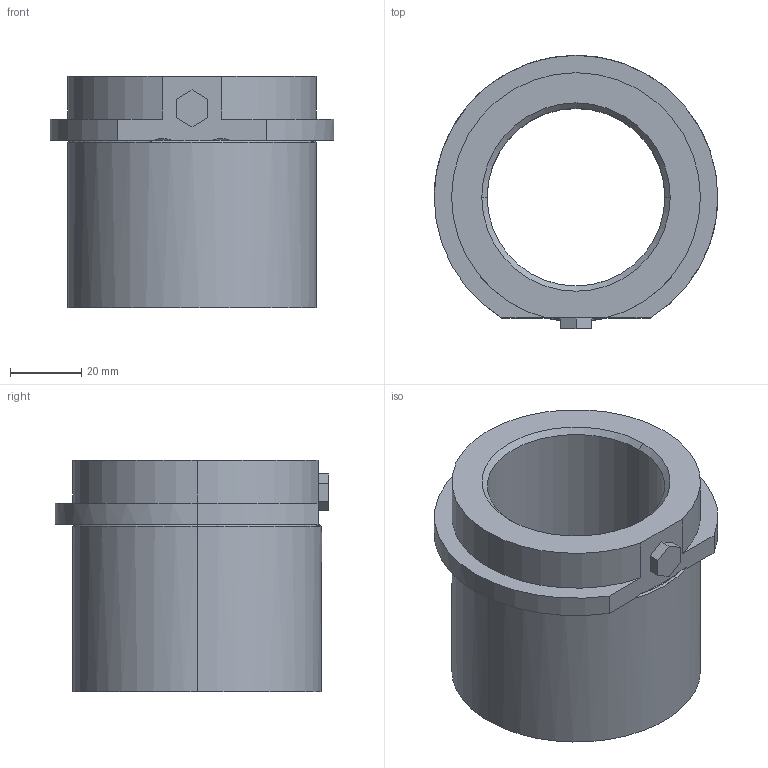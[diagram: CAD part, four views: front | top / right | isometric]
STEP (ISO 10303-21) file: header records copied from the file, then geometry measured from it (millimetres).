
FILE_DESCRIPTION(('CATIA V5 STEP Exchange'),'2;1');
FILE_NAME('C:\Users\Utente\Desktop\IO LAVORO\3D X SITO CF\X SITO\740\740-50.stp','2021-01-18T19:30:50+00:00',('none'),('none'),'CATIA Version 5 Release 20 GA (IN-10)','CATIA V5 STEP AP203','none');
FILE_SCHEMA(('CONFIG_CONTROL_DESIGN'));
Length unit declared in the file: millimetre
Products named in the file (1): 740-50
Assembly tree (1 placements, depth 2):
  740-50
    #58
Bounding box: 79.8 x 76.9 x 65 mm (x, y, z)
Volume: 127702.1 mm3; surface area: 30697.8 mm2
Topology: 1 solids, 1 shells, 35 faces, 88 edges, 57 vertices
Faces by surface type: plane 14, cylinder 12, torus 5, cone 4
Entity records: 1333 total; most frequent: CARTESIAN_POINT 471, ORIENTED_EDGE 176, DIRECTION 139, EDGE_CURVE 88, AXIS2_PLACEMENT_3D 63, VERTEX_POINT 57, VECTOR 42, LINE 42
